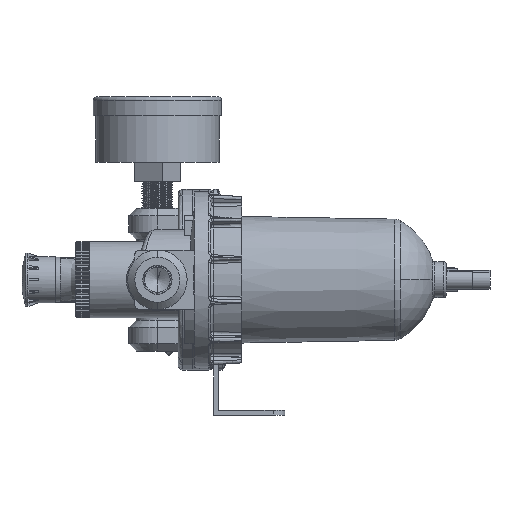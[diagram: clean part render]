
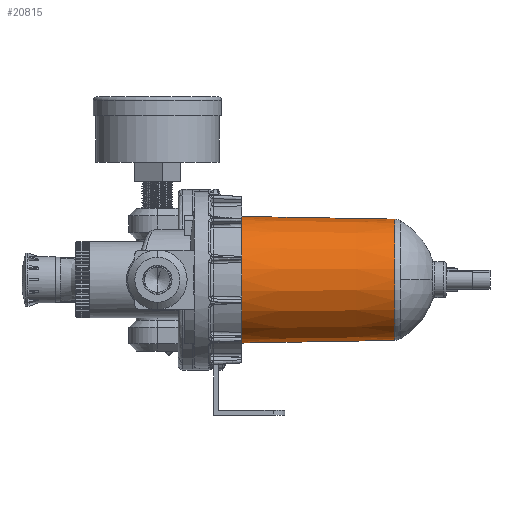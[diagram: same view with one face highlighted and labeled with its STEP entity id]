
A CAD part, left-side view. The second image highlights one B-rep face of the part: STEP entity #20815.
In plain terms, the highlighted conical face has half-angle 1 degrees and reference radius 25.5 mm.
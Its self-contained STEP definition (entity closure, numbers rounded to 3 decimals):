
#3077 = DIRECTION ( 'NONE',  ( 0., 1., -0.017 ) ) ;
#7744 = VECTOR ( 'NONE', #3077, 1000. ) ;
#9561 = DIRECTION ( 'NONE',  ( 0., 1., 0. ) ) ;
#12616 = DIRECTION ( 'NONE',  ( 0., 1., 0. ) ) ;
#12826 = CARTESIAN_POINT ( 'NONE',  ( 0., 0., 0. ) ) ;
#13208 = EDGE_CURVE ( 'NONE', #52867, #30693, #35325, .T. ) ;
#13251 = DIRECTION ( 'NONE',  ( 0., 0., 1. ) ) ;
#13903 = FACE_OUTER_BOUND ( 'NONE', #43846, .T. ) ;
#14077 = CARTESIAN_POINT ( 'NONE',  ( 0., 65.5, 26.643 ) ) ;
#16015 = ORIENTED_EDGE ( 'NONE', *, *, #13208, .F. ) ;
#19282 = CARTESIAN_POINT ( 'NONE',  ( 0., 1.155, 0. ) ) ;
#20815 = ADVANCED_FACE ( 'NONE', ( #13903 ), #35719, .T. ) ;
#21975 = EDGE_CURVE ( 'NONE', #30693, #49431, #41405, .T. ) ;
#24009 = EDGE_CURVE ( 'NONE', #47675, #49431, #57632, .T. ) ;
#24176 = ORIENTED_EDGE ( 'NONE', *, *, #21975, .F. ) ;
#24345 = CARTESIAN_POINT ( 'NONE',  ( 0., 1.155, 25.52 ) ) ;
#25581 = CARTESIAN_POINT ( 'NONE',  ( 0., 0., 25.5 ) ) ;
#28580 = EDGE_CURVE ( 'NONE', #52867, #47675, #52080, .T. ) ;
#28682 = CARTESIAN_POINT ( 'NONE',  ( 0., 1.155, -25.52 ) ) ;
#30693 = VERTEX_POINT ( 'NONE', #14077 ) ;
#31526 = AXIS2_PLACEMENT_3D ( 'NONE', #19282, #9561, #33813 ) ;
#33784 = CARTESIAN_POINT ( 'NONE',  ( 0., 65.5, 0. ) ) ;
#33813 = DIRECTION ( 'NONE',  ( 0., 0., -1. ) ) ;
#35325 = LINE ( 'NONE', #25581, #57983 ) ;
#35719 = CONICAL_SURFACE ( 'NONE', #57212, 25.5, 0.017 ) ;
#36583 = AXIS2_PLACEMENT_3D ( 'NONE', #33784, #43697, #39259 ) ;
#39259 = DIRECTION ( 'NONE',  ( 0., 0., 1. ) ) ;
#41405 = CIRCLE ( 'NONE', #36583, 26.643 ) ;
#42581 = ORIENTED_EDGE ( 'NONE', *, *, #28580, .T. ) ;
#43697 = DIRECTION ( 'NONE',  ( 0., 1., 0. ) ) ;
#43846 = EDGE_LOOP ( 'NONE', ( #42581, #49463, #24176, #16015 ) ) ;
#47675 = VERTEX_POINT ( 'NONE', #28682 ) ;
#49431 = VERTEX_POINT ( 'NONE', #59141 ) ;
#49463 = ORIENTED_EDGE ( 'NONE', *, *, #24009, .T. ) ;
#50527 = DIRECTION ( 'NONE',  ( 0., 1., 0.017 ) ) ;
#52080 = CIRCLE ( 'NONE', #31526, 25.52 ) ;
#52867 = VERTEX_POINT ( 'NONE', #24345 ) ;
#56242 = CARTESIAN_POINT ( 'NONE',  ( 0., 0., -25.5 ) ) ;
#57212 = AXIS2_PLACEMENT_3D ( 'NONE', #12826, #12616, #13251 ) ;
#57632 = LINE ( 'NONE', #56242, #7744 ) ;
#57983 = VECTOR ( 'NONE', #50527, 1000. ) ;
#59141 = CARTESIAN_POINT ( 'NONE',  ( 0., 65.5, -26.643 ) ) ;
